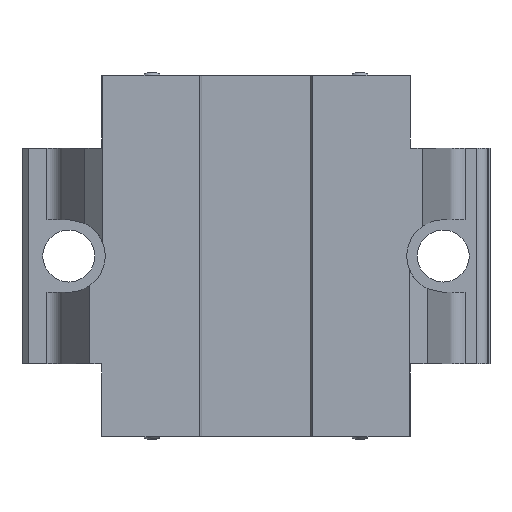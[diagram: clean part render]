
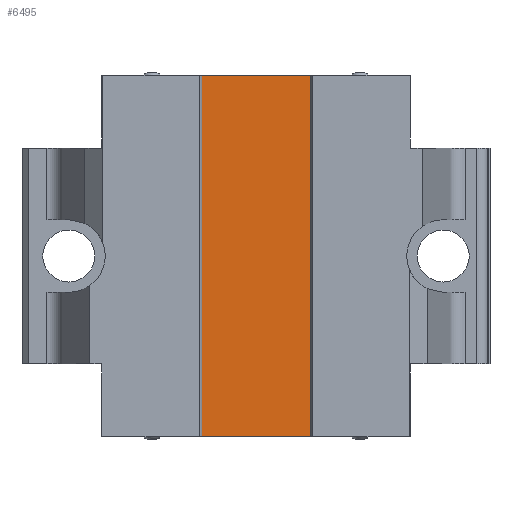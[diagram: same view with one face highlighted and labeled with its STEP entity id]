
A CAD part, front view. The second image highlights one B-rep face of the part: STEP entity #6495.
In plain terms, the highlighted planar face has unit normal (0, -1, 0).
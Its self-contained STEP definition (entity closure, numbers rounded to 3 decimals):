
#199 = LINE ( 'NONE', #1610, #1980 ) ;
#315 = EDGE_CURVE ( 'NONE', #6056, #1591, #7012, .T. ) ;
#383 = VECTOR ( 'NONE', #1557, 1000. ) ;
#538 = ORIENTED_EDGE ( 'NONE', *, *, #2601, .T. ) ;
#878 = EDGE_LOOP ( 'NONE', ( #1962, #538, #7712, #1656 ) ) ;
#910 = AXIS2_PLACEMENT_3D ( 'NONE', #4645, #3464, #7579 ) ;
#1557 = DIRECTION ( 'NONE',  ( 1., 0., 0. ) ) ;
#1578 = LINE ( 'NONE', #6320, #383 ) ;
#1591 = VERTEX_POINT ( 'NONE', #2898 ) ;
#1592 = LINE ( 'NONE', #7239, #1914 ) ;
#1610 = CARTESIAN_POINT ( 'NONE',  ( 11.289, -0.1, 14. ) ) ;
#1656 = ORIENTED_EDGE ( 'NONE', *, *, #5598, .T. ) ;
#1914 = VECTOR ( 'NONE', #3346, 1000. ) ;
#1962 = ORIENTED_EDGE ( 'NONE', *, *, #5532, .F. ) ;
#1980 = VECTOR ( 'NONE', #5224, 1000. ) ;
#2030 = VERTEX_POINT ( 'NONE', #5879 ) ;
#2601 = EDGE_CURVE ( 'NONE', #2030, #1591, #1592, .T. ) ;
#2800 = CARTESIAN_POINT ( 'NONE',  ( 11.289, -0.1, -55.5 ) ) ;
#2898 = CARTESIAN_POINT ( 'NONE',  ( -11.289, -0.1, -55.5 ) ) ;
#3346 = DIRECTION ( 'NONE',  ( 0., 0., -1. ) ) ;
#3464 = DIRECTION ( 'NONE',  ( 0., -1., 0. ) ) ;
#3623 = CARTESIAN_POINT ( 'NONE',  ( 11.289, -0.1, 14. ) ) ;
#4211 = CARTESIAN_POINT ( 'NONE',  ( -11.637, -0.1, -55.5 ) ) ;
#4645 = CARTESIAN_POINT ( 'NONE',  ( -11.259, -0.1, 14. ) ) ;
#4791 = DIRECTION ( 'NONE',  ( -1., 0., 0. ) ) ;
#5224 = DIRECTION ( 'NONE',  ( 0., 0., 1. ) ) ;
#5532 = EDGE_CURVE ( 'NONE', #2030, #6680, #1578, .T. ) ;
#5598 = EDGE_CURVE ( 'NONE', #6056, #6680, #199, .T. ) ;
#5879 = CARTESIAN_POINT ( 'NONE',  ( -11.289, -0.1, 14. ) ) ;
#6056 = VERTEX_POINT ( 'NONE', #2800 ) ;
#6320 = CARTESIAN_POINT ( 'NONE',  ( 11.637, -0.1, 14. ) ) ;
#6495 = ADVANCED_FACE ( 'NONE', ( #7708 ), #6971, .T. ) ;
#6680 = VERTEX_POINT ( 'NONE', #3623 ) ;
#6971 = PLANE ( 'NONE',  #910 ) ;
#7005 = VECTOR ( 'NONE', #4791, 1000. ) ;
#7012 = LINE ( 'NONE', #4211, #7005 ) ;
#7239 = CARTESIAN_POINT ( 'NONE',  ( -11.289, -0.1, -55.5 ) ) ;
#7579 = DIRECTION ( 'NONE',  ( 0., 0., -1. ) ) ;
#7708 = FACE_OUTER_BOUND ( 'NONE', #878, .T. ) ;
#7712 = ORIENTED_EDGE ( 'NONE', *, *, #315, .F. ) ;
